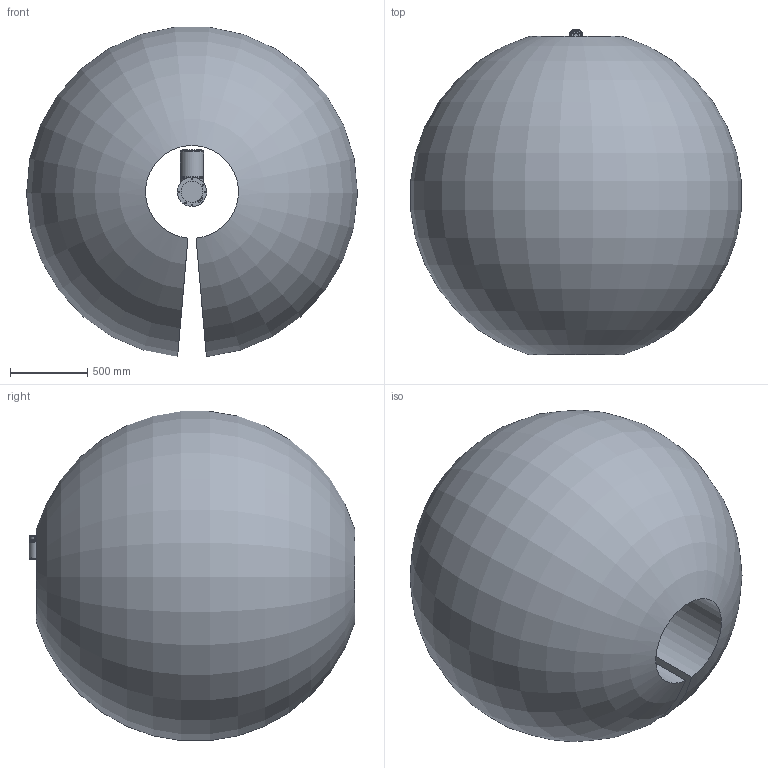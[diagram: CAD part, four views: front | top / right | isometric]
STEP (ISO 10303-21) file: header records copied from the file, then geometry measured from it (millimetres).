
FILE_DESCRIPTION (( 'STEP AP214' ), '1' );
FILE_NAME ('FR16-V6.0-外发模型-包络图.STEP', '2025-12-27T22:36:17', ( '崔兵' ), ( '' ), 'SwSTEP 2.0', 'SolidWorks 2018', '' );
FILE_SCHEMA (( 'AUTOMOTIVE_DESIGN' ));
Length unit declared in the file: millimetre
Products named in the file (8): RD20-FR16-V6.0-7; FR16堍雄毓峓; RD20-FR16-V6.0-1; RD20-FR16-V6.0-2; FR16-V6.0-俋楷耀倰-婦釐芞; RD20-FR16-V6.0-3; RD20-FR16-V6.0-5; RD20-FR16-V6.0-4
Assembly tree (8 placements, depth 2):
  FR16-V6.0-俋楷耀倰-婦釐芞
    RD20-FR16-V6.0-1
    RD20-FR16-V6.0-2
    RD20-FR16-V6.0-3
    RD20-FR16-V6.0-4
    RD20-FR16-V6.0-5  x2
    RD20-FR16-V6.0-7
    FR16堍雄毓峓
Bounding box: 2147.47 x 2114.28 x 2137.52 mm (x, y, z)
Volume: 4528923192.7 mm3; surface area: 20886170.1 mm2
Topology: 29 solids, 58 shells, 1522 faces, 3411 edges, 2155 vertices
Faces by surface type: plane 795, cylinder 395, bspline 158, cone 77, sphere 54, torus 43
Full cylindrical faces by diameter (mm): 2.5 x8, 3 x20, 3.4 x8, 5 x4, 5.5 x8, 6 x26, 8 x4, 9.995 x2, 12 x2, 14.1 x2, 16.1 x2, 31.5 x1, 46 x1, 63 x1, 68.8 x3, 71.5 x3, 72.5 x3, 76 x1, 76.1 x1, 80 x2, 84 x5, 86 x2, 88 x2, 90 x10, 94 x1, 95 x1, 110 x1, 111.5 x1, 115 x1, 115.5 x1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
Entity records: 86146 total; most frequent: CARTESIAN_POINT 57414, DIRECTION 5511, ORIENTED_EDGE 5496, EDGE_CURVE 2748, AXIS2_PLACEMENT_3D 2128, VERTEX_POINT 1851, EDGE_LOOP 1849, FACE_OUTER_BOUND 1590
